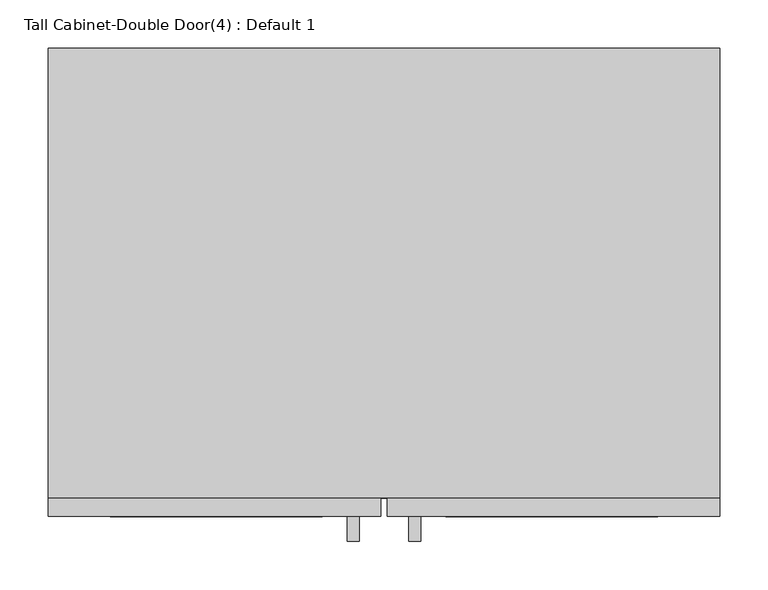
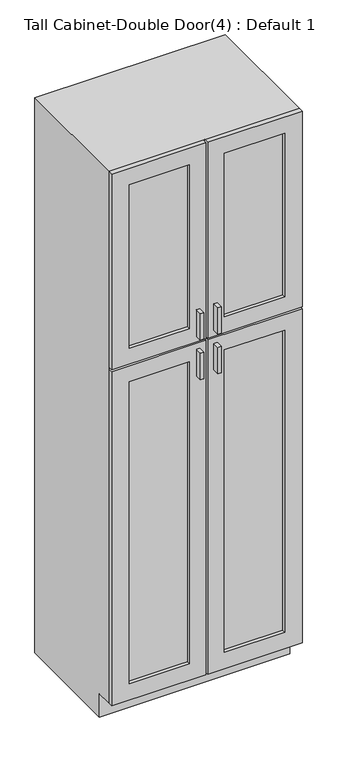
"""IFC4 building model written with IfcOpenShell, lengths in millimetres: furniture geometry, Tall Cabinet-Double Door(4) : Default 1."""

from ifc_helpers import new_model, si_unit, frame, origin, place, context, project, spatial, polyline, outline, extrude, faceted_brep, source, transform, mapped, element, save


def tall_cabinet_double_door_4_default_1_71ebce0d(model_context):
    return source(origin(), model_context, "Body", "SolidModel", [
        faceted_brep([(364.8127049, -463.55, 90.4875), (364.8127049, -463.55, 2133.6), (-327.3372951, -463.55, 2133.6), (-327.3372951, -463.55, 90.4875), (345.7627049, -463.55, 2114.55), (345.7627049, -463.55, 109.5375), (-308.2872951, -463.55, 109.5375), (-308.2872951, -463.55, 2114.55), (-327.3372951, 0.0, 2133.6), (364.8127049, 0.0, 2133.6), (364.8127049, 0.0, 1.5875), (-327.3372951, 0.0, 1.5875), (345.7627049, 0.0, 2114.55), (-308.2872951, 0.0, 2114.55), (-308.2872951, 0.0, 109.5375), (345.7627049, 0.0, 109.5375), (364.8127049, -406.4, 90.4875), (364.8127049, -406.4, 1.5875), (-327.3372951, -406.4, 1.5875), (-327.3372951, -406.4, 90.4875)], [[[0, 1, 2, 3], [4, 5, 6, 7]], [[8, 9, 10, 11], [12, 13, 14, 15]], [[1, 0, 16, 17, 10, 9]], [[2, 1, 9, 8]], [[3, 2, 8, 11, 18, 19]], [[0, 3, 19, 16]], [[5, 4, 12, 15]], [[6, 5, 15, 14]], [[7, 6, 14, 13]], [[4, 7, 13, 12]], [[10, 17, 18, 11]], [[18, 17, 16, 19]]]),
        extrude(outline(polyline([(-6.6622951, -508.0), (-19.1945267, -508.0), (-19.1945267, -482.6), (-6.6622951, -482.6), (-6.6622951, -508.0)])), frame((0.0, 0.0, 1403.5480367), z_axis=(0.0, 0.0, 1.0), x_axis=(1.0, 0.0, 0.0)), (0.0, 0.0, 1.0), 101.6),
        extrude(outline(polyline([(56.6699365, -508.0), (44.1377049, -508.0), (44.1377049, -482.6), (56.6699365, -482.6), (56.6699365, -508.0)])), frame((0.0, 0.0, 1403.5480367), z_axis=(0.0, 0.0, 1.0), x_axis=(1.0, 0.0, 0.0)), (0.0, 0.0, 1.0), 101.6),
        extrude(outline(polyline([(-6.6622951, -508.0), (-19.1945267, -508.0), (-19.1945267, -482.6), (-6.6622951, -482.6), (-6.6622951, -508.0)])), frame((0.0, 0.0, 1251.1480367), z_axis=(0.0, 0.0, 1.0), x_axis=(1.0, 0.0, 0.0)), (0.0, 0.0, 1.0), 101.6),
        extrude(outline(polyline([(56.6699365, -508.0), (44.1377049, -508.0), (44.1377049, -482.6), (56.6699365, -482.6), (56.6699365, -508.0)])), frame((0.0, 0.0, 1251.1480367), z_axis=(0.0, 0.0, 1.0), x_axis=(1.0, 0.0, 0.0)), (0.0, 0.0, 1.0), 101.6),
        extrude(outline(polyline([(-44.7622951, -469.9), (-263.8372951, -469.9), (-263.8372951, -463.55), (-44.7622951, -463.55), (-44.7622951, -469.9)])), frame((0.0, 0.0, 1441.6480367), z_axis=(0.0, 0.0, 1.0), x_axis=(1.0, 0.0, 0.0)), (0.0, 0.0, 1.0), 628.4519633),
        extrude(outline(polyline([(301.3127049, -469.9), (82.2377049, -469.9), (82.2377049, -463.55), (301.3127049, -463.55), (301.3127049, -469.9)])), frame((0.0, 0.0, 1441.6480367), z_axis=(0.0, 0.0, 1.0), x_axis=(1.0, 0.0, 0.0)), (0.0, 0.0, 1.0), 628.4519633),
        extrude(outline(polyline([(-44.7622951, -469.9), (-263.8372951, -469.9), (-263.8372951, -463.55), (-44.7622951, -463.55), (-44.7622951, -469.9)])), frame((0.0, 0.0, 153.9875), z_axis=(0.0, 0.0, 1.0), x_axis=(1.0, 0.0, 0.0)), (0.0, 0.0, 1.0), 1160.6605367),
        extrude(outline(polyline([(301.3127049, -469.9), (82.2377049, -469.9), (82.2377049, -463.55), (301.3127049, -463.55), (301.3127049, -469.9)])), frame((0.0, 0.0, 153.9875), z_axis=(0.0, 0.0, 1.0), x_axis=(1.0, 0.0, 0.0)), (0.0, 0.0, 1.0), 1160.6605367),
        extrude(outline(polyline([(2133.6, 15.5627049), (2133.6, -327.3372951), (1381.3230367, -327.3372951), (1381.3230367, 15.5627049), (2133.6, 15.5627049)]), holes=[polyline([(2070.1, -44.7622951), (1441.6480367, -44.7622951), (1441.6480367, -263.8372951), (2070.1, -263.8372951), (2070.1, -44.7622951)])]), frame((0.0, -482.6, 0.0), z_axis=(0.0, 1.0, 0.0), x_axis=(0.0, 0.0, 1.0)), (0.0, 0.0, 1.0), 19.05),
        extrude(outline(polyline([(2133.6, 21.9127049), (1381.3230367, 21.9127049), (1381.3230367, 364.8127049), (2133.6, 364.8127049), (2133.6, 21.9127049)]), holes=[polyline([(2070.1, 301.3127049), (1441.6480367, 301.3127049), (1441.6480367, 82.2377049), (2070.1, 82.2377049), (2070.1, 301.3127049)])]), frame((0.0, -482.6, 0.0), z_axis=(0.0, 1.0, 0.0), x_axis=(0.0, 0.0, 1.0)), (0.0, 0.0, 1.0), 19.05),
        extrude(outline(polyline([(90.4875, 21.9127049), (90.4875, 364.8127049), (1374.9730367, 364.8127049), (1374.9730367, 21.9127049), (90.4875, 21.9127049)]), holes=[polyline([(1314.6480367, 82.2377049), (1314.6480367, 301.3127049), (153.9875, 301.3127049), (153.9875, 82.2377049), (1314.6480367, 82.2377049)])]), frame((0.0, -482.6, 0.0), z_axis=(0.0, 1.0, 0.0), x_axis=(0.0, 0.0, 1.0)), (0.0, 0.0, 1.0), 19.05),
        extrude(outline(polyline([(90.4875, 15.5627049), (1374.9730367, 15.5627049), (1374.9730367, -327.3372951), (90.4875, -327.3372951), (90.4875, 15.5627049)]), holes=[polyline([(1314.6480367, -44.7622951), (153.9875, -44.7622951), (153.9875, -263.8372951), (1314.6480367, -263.8372951), (1314.6480367, -44.7622951)])]), frame((0.0, -482.6, 0.0), z_axis=(0.0, 1.0, 0.0), x_axis=(0.0, 0.0, 1.0)), (0.0, 0.0, 1.0), 19.05),
        extrude(outline(polyline([(345.7627049, -19.05), (-308.2872951, -19.05), (-308.2872951, 0.0), (345.7627049, 0.0), (345.7627049, -19.05)])), frame((0.0, 0.0, 109.5375), z_axis=(0.0, 0.0, 1.0), x_axis=(1.0, 0.0, 0.0)), (0.0, 0.0, 1.0), 2005.0125),
    ])


if __name__ == "__main__":
    model = new_model("IFC4")
    model_context = context("Model", 3, world=origin())
    ifc_project = project(units=[si_unit("LENGTHUNIT", "METRE", prefix="MILLI")], contexts=[model_context])
    site = spatial("IfcSite", under=ifc_project)
    building = spatial("IfcBuilding", under=site)
    placement = place(None, origin())
    tall_cabinet_double_door_4_default_1_shape = tall_cabinet_double_door_4_default_1_71ebce0d(model_context)
    element("IfcFurniture", 1, ObjectType="Tall Cabinet-Double Door(4) : Default 1", at=placement, inside=building, context=model_context, shape_type="MappedRepresentation", body=[
        mapped(tall_cabinet_double_door_4_default_1_shape, transform((0.0, 0.0, 0.0), x_axis=(1.0, 0.0, 0.0), y_axis=(0.0, 1.0, 0.0), z_axis=(0.0, 0.0, 1.0))),
    ])
    save(model, "model.ifc")
